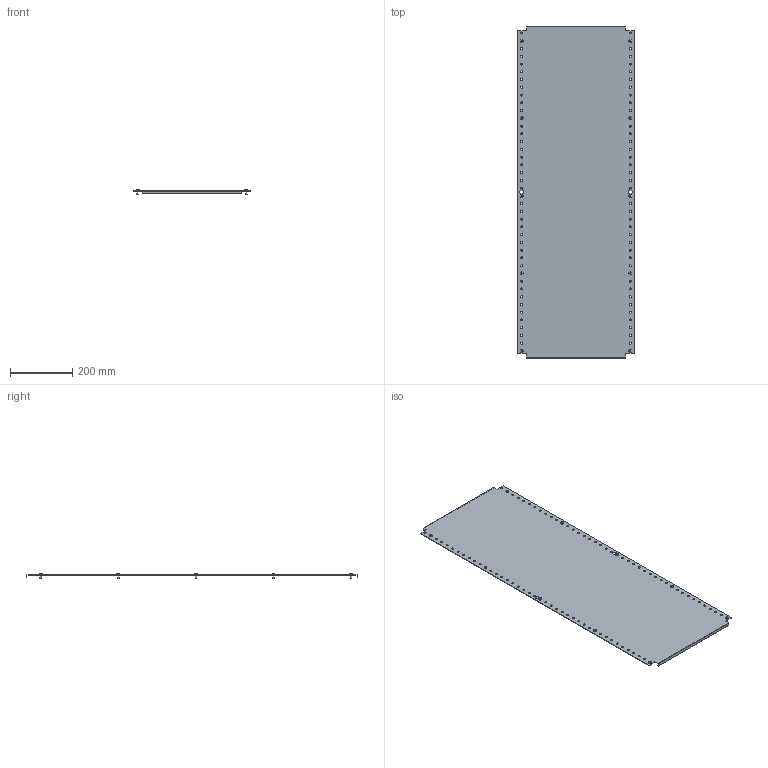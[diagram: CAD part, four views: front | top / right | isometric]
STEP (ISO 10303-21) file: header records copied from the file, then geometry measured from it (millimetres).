
FILE_DESCRIPTION (( 'STEP AP203' ), '1' );
FILE_NAME ('R6MP1245.STEP', '2025-03-28T12:05:54', ( '' ), ( '' ), 'SwSTEP 2.0', 'SolidWorks 2022', '' );
FILE_SCHEMA (( 'CONFIG_CONTROL_DESIGN' ));
Length unit declared in the file: millimetre
Products named in the file (3): RB.3293.00.00.0_-06; M5x12 DIN 7500 C Torx Zinc_stright; R6MP1245
Assembly tree (11 placements, depth 2):
  R6MP1245
    RB.3293.00.00.0_-06
    M5x12 DIN 7500 C Torx Zinc_stright  x10
Bounding box: 375 x 1070 x 15.56 mm (x, y, z)
Volume: 727539.8 mm3; surface area: 816415.3 mm2
Topology: 11 solids, 11 shells, 278 faces, 648 edges, 402 vertices
Faces by surface type: plane 110, cylinder 108, torus 20, cone 20, sphere 10, bspline 10
Full cylindrical faces by diameter (mm): 5 x10, 6.5 x84, 9.5 x10
Entity records: 5061 total; most frequent: CARTESIAN_POINT 882, DIRECTION 760, ORIENTED_EDGE 568, EDGE_LOOP 398, AXIS2_PLACEMENT_3D 336, EDGE_CURVE 284, VERTEX_POINT 246, FACE_OUTER_BOUND 224
